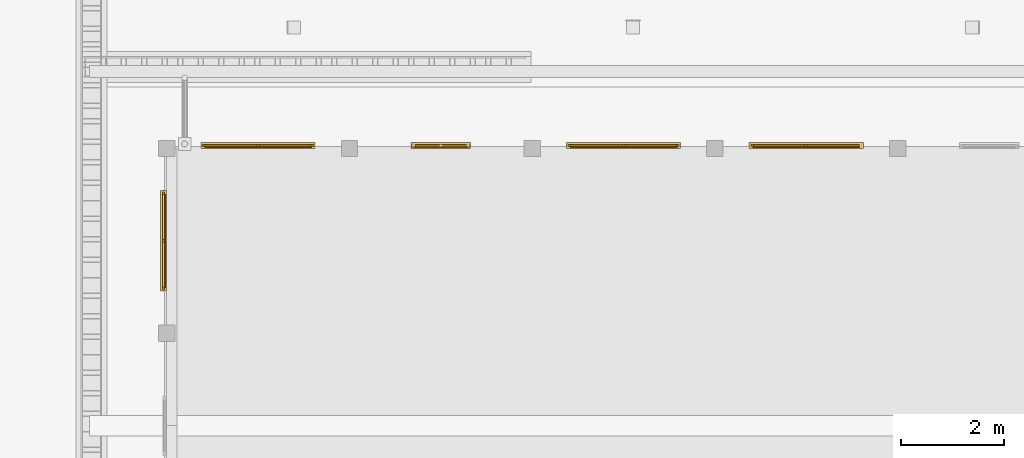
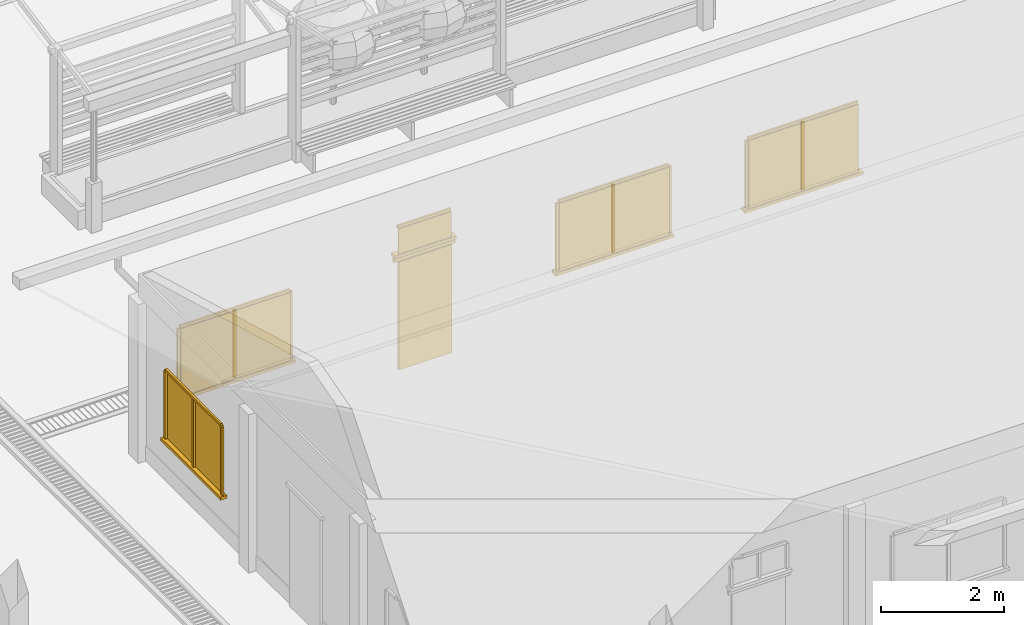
# One storey, part 56 of 166: 26 windows, 2 doors.
"""IFC2X3 building model written with IfcOpenShell, lengths in metres."""

from ifc_helpers import new_model, si_unit, origin, origin_with_axes, place, context, subcontext, project, spatial, faceted_brep, element, save


model = new_model("IFC2X3")

# Units and contexts
model_context = context("Model", 3, precision=1e-05, world=origin_with_axes())
body_context = subcontext(model_context, "Body", "Model", "MODEL_VIEW")
ifc_project = project(units=[si_unit("LENGTHUNIT", "METRE"), si_unit("AREAUNIT", "SQUARE_METRE"), si_unit("VOLUMEUNIT", "CUBIC_METRE"), si_unit("PLANEANGLEUNIT", "RADIAN")], contexts=[model_context])

# Site, building, storey
site_placement = place(None, origin_with_axes())
site = spatial("IfcSite", under=ifc_project, at=site_placement, Name="Predio Los Mangos - Morales, San Martín", CompositionType="ELEMENT")
building_placement = place(site_placement, origin())
building = spatial("IfcBuilding", under=site, at=building_placement, Name="Hogar de Refugio Temporal", CompositionType="ELEMENT")
storey_placement = place(building_placement, origin())
storey = spatial("IfcBuildingStorey", under=building, at=storey_placement, Name="NIVEL 1 (NPT +0.00)", CompositionType="ELEMENT", Elevation=0.0)

# Windows
window_1_placement = place(storey_placement, origin())
element("IfcWindow", 1, at=window_1_placement, inside=storey, Name="E-06_v0_vid", ObjectType="Ventana", context=body_context, shape_type="Brep", body=[
    faceted_brep([(32.7476, 103.52, 1.05), (32.7476, 103.54, 1.05), (34.8124, 103.54, 1.05), (34.8124, 103.52, 1.05), (32.7476, 103.52, 2.4), (34.8124, 103.52, 2.4), (34.8124, 103.54, 2.4), (32.7476, 103.54, 2.4)], [[[0, 1, 2, 3]], [[4, 5, 6, 7]], [[0, 3, 5, 4]], [[3, 2, 6, 5]], [[2, 1, 7, 6]], [[1, 0, 4, 7]]]),
])
window_2_placement = place(storey_placement, origin())
element("IfcWindow", 2, at=window_2_placement, inside=storey, Name="E-06_v0_m", ObjectType="Ventana", context=body_context, shape_type="Brep", body=[
    faceted_brep([(32.6976, 103.54, 1.05), (32.6976, 103.58, 1.05), (32.7476, 103.58, 1.05), (32.7476, 103.54, 1.05), (32.6976, 103.54, 2.4), (32.7476, 103.54, 2.4), (32.7476, 103.58, 2.4), (32.6976, 103.58, 2.4)], [[[0, 1, 2, 3]], [[4, 5, 6, 7]], [[0, 3, 5, 4]], [[3, 2, 6, 5]], [[2, 1, 7, 6]], [[1, 0, 4, 7]]]),
])
window_3_placement = place(storey_placement, origin())
element("IfcWindow", 3, at=window_3_placement, inside=storey, Name="E-06_v0_m", ObjectType="Ventana", context=body_context, shape_type="Brep", body=[
    faceted_brep([(34.8124, 103.54, 1.05), (34.8124, 103.58, 1.05), (34.8624, 103.58, 1.05), (34.8624, 103.54, 1.05), (34.8124, 103.54, 2.4), (34.8624, 103.54, 2.4), (34.8624, 103.58, 2.4), (34.8124, 103.58, 2.4)], [[[0, 1, 2, 3]], [[4, 5, 6, 7]], [[0, 3, 5, 4]], [[3, 2, 6, 5]], [[2, 1, 7, 6]], [[1, 0, 4, 7]]]),
])
window_4_placement = place(storey_placement, origin())
element("IfcWindow", 4, at=window_4_placement, inside=storey, Name="E-06_v0_m", ObjectType="Ventana", context=body_context, shape_type="Brep", body=[
    faceted_brep([(32.7476, 103.54, 2.4), (32.7476, 103.58, 2.4), (34.8124, 103.58, 2.4), (34.8124, 103.54, 2.4), (32.7476, 103.54, 2.45), (34.8124, 103.54, 2.45), (34.8124, 103.58, 2.45), (32.7476, 103.58, 2.45)], [[[0, 1, 2, 3]], [[4, 5, 6, 7]], [[0, 3, 5, 4]], [[3, 2, 6, 5]], [[2, 1, 7, 6]], [[1, 0, 4, 7]]]),
])
window_5_placement = place(storey_placement, origin())
element("IfcWindow", 5, at=window_5_placement, inside=storey, Name="E-06_v0_m", ObjectType="Ventana", context=body_context, shape_type="Brep", body=[
    faceted_brep([(33.755, 103.54, 1.05), (33.755, 103.58, 1.05), (33.805, 103.58, 1.05), (33.805, 103.54, 1.05), (33.755, 103.54, 2.4), (33.805, 103.54, 2.4), (33.805, 103.58, 2.4), (33.755, 103.58, 2.4)], [[[0, 1, 2, 3]], [[4, 5, 6, 7]], [[0, 3, 5, 4]], [[3, 2, 6, 5]], [[2, 1, 7, 6]], [[1, 0, 4, 7]]]),
])
window_6_placement = place(storey_placement, origin())
element("IfcWindow", 6, at=window_6_placement, inside=storey, Name="E-06_v0_alf", ObjectType="Ventana", context=body_context, shape_type="Brep", body=[
    faceted_brep([(32.6676, 103.5, 0.99), (32.6676, 103.62, 0.99), (34.8924, 103.62, 0.99), (34.8924, 103.5, 0.99), (32.6676, 103.5, 1.05), (34.8924, 103.5, 1.05), (34.8924, 103.62, 1.05), (32.6676, 103.62, 1.05)], [[[0, 1, 2, 3]], [[4, 5, 6, 7]], [[0, 3, 5, 4]], [[3, 2, 6, 5]], [[2, 1, 7, 6]], [[1, 0, 4, 7]]]),
])

# Doors
door_1_placement = place(storey_placement, origin())
element("IfcDoor", 7, at=door_1_placement, inside=storey, Name="E-06_p1", ObjectType="Puerta", context=body_context, shape_type="Brep", body=[
    faceted_brep([(36.84, 103.51, 0.15), (36.84, 103.55, 0.15), (37.84, 103.55, 0.15), (37.84, 103.51, 0.15), (36.84, 103.51, 2.3), (37.84, 103.51, 2.3), (37.84, 103.55, 2.3), (36.84, 103.55, 2.3)], [[[0, 1, 2, 3]], [[4, 5, 6, 7]], [[0, 3, 5, 4]], [[3, 2, 6, 5]], [[2, 1, 7, 6]], [[1, 0, 4, 7]]]),
])
door_2_placement = place(storey_placement, origin())
element("IfcDoor", 8, at=door_2_placement, inside=storey, Name="E-06_p1_marco", ObjectType="Puerta", context=body_context, shape_type="Brep", body=[
    faceted_brep([(36.76, 103.53, 2.3), (36.76, 103.57, 2.3), (37.92, 103.57, 2.3), (37.92, 103.53, 2.3), (36.76, 103.53, 2.38), (37.92, 103.53, 2.38), (37.92, 103.57, 2.38), (36.76, 103.57, 2.38)], [[[0, 1, 2, 3]], [[4, 5, 6, 7]], [[0, 3, 5, 4]], [[3, 2, 6, 5]], [[2, 1, 7, 6]], [[1, 0, 4, 7]]]),
])

# Windows
window_7_placement = place(storey_placement, origin())
element("IfcWindow", 9, at=window_7_placement, inside=storey, Name="E-06_vt1_vid", ObjectType="Ventana", context=body_context, shape_type="Brep", body=[
    faceted_brep([(36.84, 103.52, 2.45), (36.84, 103.54, 2.45), (37.84, 103.54, 2.45), (37.84, 103.52, 2.45), (36.84, 103.52, 2.95), (37.84, 103.52, 2.95), (37.84, 103.54, 2.95), (36.84, 103.54, 2.95)], [[[0, 1, 2, 3]], [[4, 5, 6, 7]], [[0, 3, 5, 4]], [[3, 2, 6, 5]], [[2, 1, 7, 6]], [[1, 0, 4, 7]]]),
])
window_8_placement = place(storey_placement, origin())
element("IfcWindow", 10, at=window_8_placement, inside=storey, Name="E-06_vt1_m", ObjectType="Ventana", context=body_context, shape_type="Brep", body=[
    faceted_brep([(36.84, 103.54, 2.95), (36.84, 103.58, 2.95), (37.84, 103.58, 2.95), (37.84, 103.54, 2.95), (36.84, 103.54, 3.0), (37.84, 103.54, 3.0), (37.84, 103.58, 3.0), (36.84, 103.58, 3.0)], [[[0, 1, 2, 3]], [[4, 5, 6, 7]], [[0, 3, 5, 4]], [[3, 2, 6, 5]], [[2, 1, 7, 6]], [[1, 0, 4, 7]]]),
])
window_9_placement = place(storey_placement, origin())
element("IfcWindow", 11, at=window_9_placement, inside=storey, Name="E-06_vt1_alf", ObjectType="Ventana", context=body_context, shape_type="Brep", body=[
    faceted_brep([(36.76, 103.5, 2.39), (36.76, 103.62, 2.39), (37.92, 103.62, 2.39), (37.92, 103.5, 2.39), (36.76, 103.5, 2.45), (37.92, 103.5, 2.45), (37.92, 103.62, 2.45), (36.76, 103.62, 2.45)], [[[0, 1, 2, 3]], [[4, 5, 6, 7]], [[0, 3, 5, 4]], [[3, 2, 6, 5]], [[2, 1, 7, 6]], [[1, 0, 4, 7]]]),
])
window_10_placement = place(storey_placement, origin())
element("IfcWindow", 12, at=window_10_placement, inside=storey, Name="E-06_v2_vid", ObjectType="Ventana", context=body_context, shape_type="Brep", body=[
    faceted_brep([(39.8676, 103.52, 1.05), (39.8676, 103.54, 1.05), (41.9324, 103.54, 1.05), (41.9324, 103.52, 1.05), (39.8676, 103.52, 2.4), (41.9324, 103.52, 2.4), (41.9324, 103.54, 2.4), (39.8676, 103.54, 2.4)], [[[0, 1, 2, 3]], [[4, 5, 6, 7]], [[0, 3, 5, 4]], [[3, 2, 6, 5]], [[2, 1, 7, 6]], [[1, 0, 4, 7]]]),
])
window_11_placement = place(storey_placement, origin())
element("IfcWindow", 13, at=window_11_placement, inside=storey, Name="E-06_v2_m", ObjectType="Ventana", context=body_context, shape_type="Brep", body=[
    faceted_brep([(39.8176, 103.54, 1.05), (39.8176, 103.58, 1.05), (39.8676, 103.58, 1.05), (39.8676, 103.54, 1.05), (39.8176, 103.54, 2.4), (39.8676, 103.54, 2.4), (39.8676, 103.58, 2.4), (39.8176, 103.58, 2.4)], [[[0, 1, 2, 3]], [[4, 5, 6, 7]], [[0, 3, 5, 4]], [[3, 2, 6, 5]], [[2, 1, 7, 6]], [[1, 0, 4, 7]]]),
])
window_12_placement = place(storey_placement, origin())
element("IfcWindow", 14, at=window_12_placement, inside=storey, Name="E-06_v2_m", ObjectType="Ventana", context=body_context, shape_type="Brep", body=[
    faceted_brep([(41.9324, 103.54, 1.05), (41.9324, 103.58, 1.05), (41.9824, 103.58, 1.05), (41.9824, 103.54, 1.05), (41.9324, 103.54, 2.4), (41.9824, 103.54, 2.4), (41.9824, 103.58, 2.4), (41.9324, 103.58, 2.4)], [[[0, 1, 2, 3]], [[4, 5, 6, 7]], [[0, 3, 5, 4]], [[3, 2, 6, 5]], [[2, 1, 7, 6]], [[1, 0, 4, 7]]]),
])
window_13_placement = place(storey_placement, origin())
element("IfcWindow", 15, at=window_13_placement, inside=storey, Name="E-06_v2_m", ObjectType="Ventana", context=body_context, shape_type="Brep", body=[
    faceted_brep([(39.8676, 103.54, 2.4), (39.8676, 103.58, 2.4), (41.9324, 103.58, 2.4), (41.9324, 103.54, 2.4), (39.8676, 103.54, 2.45), (41.9324, 103.54, 2.45), (41.9324, 103.58, 2.45), (39.8676, 103.58, 2.45)], [[[0, 1, 2, 3]], [[4, 5, 6, 7]], [[0, 3, 5, 4]], [[3, 2, 6, 5]], [[2, 1, 7, 6]], [[1, 0, 4, 7]]]),
])
window_14_placement = place(storey_placement, origin())
element("IfcWindow", 16, at=window_14_placement, inside=storey, Name="E-06_v2_m", ObjectType="Ventana", context=body_context, shape_type="Brep", body=[
    faceted_brep([(40.875, 103.54, 1.05), (40.875, 103.58, 1.05), (40.925, 103.58, 1.05), (40.925, 103.54, 1.05), (40.875, 103.54, 2.4), (40.925, 103.54, 2.4), (40.925, 103.58, 2.4), (40.875, 103.58, 2.4)], [[[0, 1, 2, 3]], [[4, 5, 6, 7]], [[0, 3, 5, 4]], [[3, 2, 6, 5]], [[2, 1, 7, 6]], [[1, 0, 4, 7]]]),
])
window_15_placement = place(storey_placement, origin())
element("IfcWindow", 17, at=window_15_placement, inside=storey, Name="E-06_v2_alf", ObjectType="Ventana", context=body_context, shape_type="Brep", body=[
    faceted_brep([(39.7876, 103.5, 0.99), (39.7876, 103.62, 0.99), (42.0124, 103.62, 0.99), (42.0124, 103.5, 0.99), (39.7876, 103.5, 1.05), (42.0124, 103.5, 1.05), (42.0124, 103.62, 1.05), (39.7876, 103.62, 1.05)], [[[0, 1, 2, 3]], [[4, 5, 6, 7]], [[0, 3, 5, 4]], [[3, 2, 6, 5]], [[2, 1, 7, 6]], [[1, 0, 4, 7]]]),
])
window_16_placement = place(storey_placement, origin())
element("IfcWindow", 18, at=window_16_placement, inside=storey, Name="E-06_v3_vid", ObjectType="Ventana", context=body_context, shape_type="Brep", body=[
    faceted_brep([(43.4276, 103.52, 1.05), (43.4276, 103.54, 1.05), (45.4924, 103.54, 1.05), (45.4924, 103.52, 1.05), (43.4276, 103.52, 2.4), (45.4924, 103.52, 2.4), (45.4924, 103.54, 2.4), (43.4276, 103.54, 2.4)], [[[0, 1, 2, 3]], [[4, 5, 6, 7]], [[0, 3, 5, 4]], [[3, 2, 6, 5]], [[2, 1, 7, 6]], [[1, 0, 4, 7]]]),
])
window_17_placement = place(storey_placement, origin())
element("IfcWindow", 19, at=window_17_placement, inside=storey, Name="E-06_v3_m", ObjectType="Ventana", context=body_context, shape_type="Brep", body=[
    faceted_brep([(43.3776, 103.54, 1.05), (43.3776, 103.58, 1.05), (43.4276, 103.58, 1.05), (43.4276, 103.54, 1.05), (43.3776, 103.54, 2.4), (43.4276, 103.54, 2.4), (43.4276, 103.58, 2.4), (43.3776, 103.58, 2.4)], [[[0, 1, 2, 3]], [[4, 5, 6, 7]], [[0, 3, 5, 4]], [[3, 2, 6, 5]], [[2, 1, 7, 6]], [[1, 0, 4, 7]]]),
])
window_18_placement = place(storey_placement, origin())
element("IfcWindow", 20, at=window_18_placement, inside=storey, Name="E-06_v3_m", ObjectType="Ventana", context=body_context, shape_type="Brep", body=[
    faceted_brep([(43.4276, 103.54, 2.4), (43.4276, 103.58, 2.4), (45.4924, 103.58, 2.4), (45.4924, 103.54, 2.4), (43.4276, 103.54, 2.45), (45.4924, 103.54, 2.45), (45.4924, 103.58, 2.45), (43.4276, 103.58, 2.45)], [[[0, 1, 2, 3]], [[4, 5, 6, 7]], [[0, 3, 5, 4]], [[3, 2, 6, 5]], [[2, 1, 7, 6]], [[1, 0, 4, 7]]]),
])
window_19_placement = place(storey_placement, origin())
element("IfcWindow", 21, at=window_19_placement, inside=storey, Name="E-06_v3_m", ObjectType="Ventana", context=body_context, shape_type="Brep", body=[
    faceted_brep([(44.435, 103.54, 1.05), (44.435, 103.58, 1.05), (44.485, 103.58, 1.05), (44.485, 103.54, 1.05), (44.435, 103.54, 2.4), (44.485, 103.54, 2.4), (44.485, 103.58, 2.4), (44.435, 103.58, 2.4)], [[[0, 1, 2, 3]], [[4, 5, 6, 7]], [[0, 3, 5, 4]], [[3, 2, 6, 5]], [[2, 1, 7, 6]], [[1, 0, 4, 7]]]),
])
window_20_placement = place(storey_placement, origin())
element("IfcWindow", 22, at=window_20_placement, inside=storey, Name="E-06_v3_alf", ObjectType="Ventana", context=body_context, shape_type="Brep", body=[
    faceted_brep([(43.3476, 103.5, 0.99), (43.3476, 103.62, 0.99), (45.5724, 103.62, 0.99), (45.5724, 103.5, 0.99), (43.3476, 103.5, 1.05), (45.5724, 103.5, 1.05), (45.5724, 103.62, 1.05), (43.3476, 103.62, 1.05)], [[[0, 1, 2, 3]], [[4, 5, 6, 7]], [[0, 3, 5, 4]], [[3, 2, 6, 5]], [[2, 1, 7, 6]], [[1, 0, 4, 7]]]),
])
window_21_placement = place(storey_placement, origin())
element("IfcWindow", 23, at=window_21_placement, inside=storey, Name="E-06_vg2_vid", ObjectType="Ventana", context=body_context, shape_type="Brep", body=[
    faceted_brep([(31.96, 100.8, 1.05), (31.96, 102.6, 1.05), (31.98, 102.6, 1.05), (31.98, 100.8, 1.05), (31.96, 100.8, 2.4), (31.98, 100.8, 2.4), (31.98, 102.6, 2.4), (31.96, 102.6, 2.4)], [[[0, 1, 2, 3]], [[4, 5, 6, 7]], [[0, 3, 5, 4]], [[3, 2, 6, 5]], [[2, 1, 7, 6]], [[1, 0, 4, 7]]]),
])
window_22_placement = place(storey_placement, origin())
element("IfcWindow", 24, at=window_22_placement, inside=storey, Name="E-06_vg2_m", ObjectType="Ventana", context=body_context, shape_type="Brep", body=[
    faceted_brep([(31.92, 100.75, 1.05), (31.92, 100.8, 1.05), (31.96, 100.8, 1.05), (31.96, 100.75, 1.05), (31.92, 100.75, 2.4), (31.96, 100.75, 2.4), (31.96, 100.8, 2.4), (31.92, 100.8, 2.4)], [[[0, 1, 2, 3]], [[4, 5, 6, 7]], [[0, 3, 5, 4]], [[3, 2, 6, 5]], [[2, 1, 7, 6]], [[1, 0, 4, 7]]]),
])
window_23_placement = place(storey_placement, origin())
element("IfcWindow", 25, at=window_23_placement, inside=storey, Name="E-06_vg2_m", ObjectType="Ventana", context=body_context, shape_type="Brep", body=[
    faceted_brep([(31.92, 102.6, 1.05), (31.92, 102.65, 1.05), (31.96, 102.65, 1.05), (31.96, 102.6, 1.05), (31.92, 102.6, 2.4), (31.96, 102.6, 2.4), (31.96, 102.65, 2.4), (31.92, 102.65, 2.4)], [[[0, 1, 2, 3]], [[4, 5, 6, 7]], [[0, 3, 5, 4]], [[3, 2, 6, 5]], [[2, 1, 7, 6]], [[1, 0, 4, 7]]]),
])
window_24_placement = place(storey_placement, origin())
element("IfcWindow", 26, at=window_24_placement, inside=storey, Name="E-06_vg2_m", ObjectType="Ventana", context=body_context, shape_type="Brep", body=[
    faceted_brep([(31.92, 100.8, 2.4), (31.92, 102.6, 2.4), (31.96, 102.6, 2.4), (31.96, 100.8, 2.4), (31.92, 100.8, 2.45), (31.96, 100.8, 2.45), (31.96, 102.6, 2.45), (31.92, 102.6, 2.45)], [[[0, 1, 2, 3]], [[4, 5, 6, 7]], [[0, 3, 5, 4]], [[3, 2, 6, 5]], [[2, 1, 7, 6]], [[1, 0, 4, 7]]]),
])
window_25_placement = place(storey_placement, origin())
element("IfcWindow", 27, at=window_25_placement, inside=storey, Name="E-06_vg2_m", ObjectType="Ventana", context=body_context, shape_type="Brep", body=[
    faceted_brep([(31.92, 101.675, 1.05), (31.92, 101.725, 1.05), (31.96, 101.725, 1.05), (31.96, 101.675, 1.05), (31.92, 101.675, 2.4), (31.96, 101.675, 2.4), (31.96, 101.725, 2.4), (31.92, 101.725, 2.4)], [[[0, 1, 2, 3]], [[4, 5, 6, 7]], [[0, 3, 5, 4]], [[3, 2, 6, 5]], [[2, 1, 7, 6]], [[1, 0, 4, 7]]]),
])
window_26_placement = place(storey_placement, origin())
element("IfcWindow", 28, at=window_26_placement, inside=storey, Name="E-06_vg2_alf", ObjectType="Ventana", context=body_context, shape_type="Brep", body=[
    faceted_brep([(32.0, 100.72, 0.99), (32.0, 102.68, 0.99), (31.88, 102.68, 0.99), (31.88, 100.72, 0.99), (32.0, 100.72, 1.05), (31.88, 100.72, 1.05), (31.88, 102.68, 1.05), (32.0, 102.68, 1.05)], [[[0, 1, 2, 3]], [[4, 5, 6, 7]], [[0, 3, 5, 4]], [[3, 2, 6, 5]], [[2, 1, 7, 6]], [[1, 0, 4, 7]]]),
])

save(model, "model.ifc")
